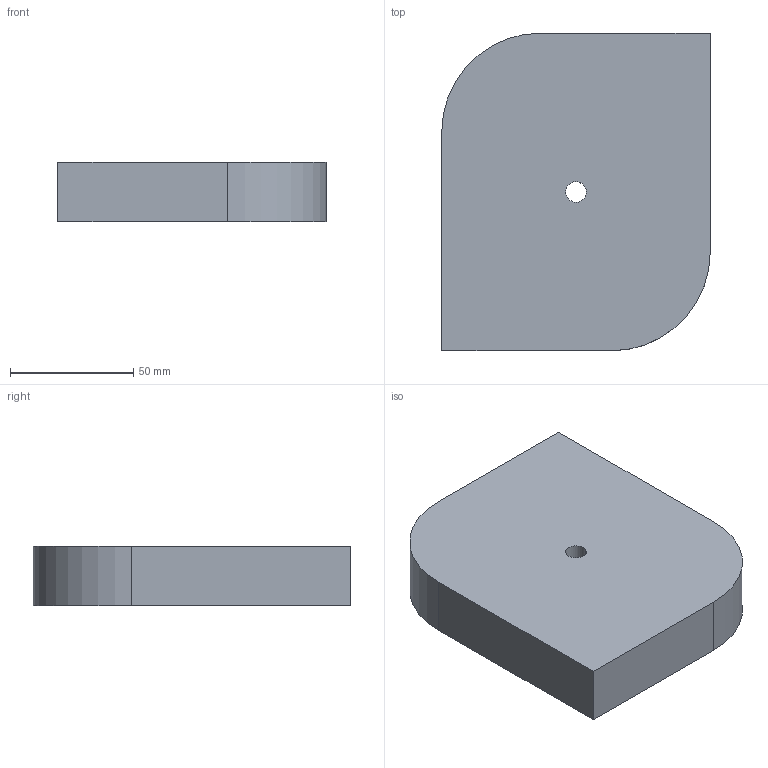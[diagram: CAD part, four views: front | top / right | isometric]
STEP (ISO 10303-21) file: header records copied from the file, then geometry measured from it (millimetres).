
FILE_DESCRIPTION(('CATIA V5 STEP Exchange'),'2;1');
FILE_NAME('C:\_Andres\UNIVERSIDAD\IQS\ASIGNATURAS\DAO\EXF\EXF-15161c\1original\Postius_Echeverri_Ej01-plano_v19.stp','2016-03-04T14:59:46+00:00',('none'),('none'),'CATIA Version 5 Release 20 SP 1 (IN-10)','CATIA V5 STEP AP203','none');
FILE_SCHEMA(('CONFIG_CONTROL_DESIGN'));
Length unit declared in the file: millimetre
Products named in the file (1): Postius_Echeverri_Ej01-plano_v19
Bounding box: 109 x 129 x 24 mm (x, y, z)
Volume: 319660.1 mm3; surface area: 37869.8 mm2
Topology: 1 solids, 1 shells, 10 faces, 24 edges, 16 vertices
Faces by surface type: plane 6, cylinder 4
Entity records: 333 total; most frequent: CARTESIAN_POINT 51, ORIENTED_EDGE 48, DIRECTION 44, EDGE_CURVE 24, AXIS2_PLACEMENT_3D 19, VECTOR 16, LINE 16, VERTEX_POINT 16
